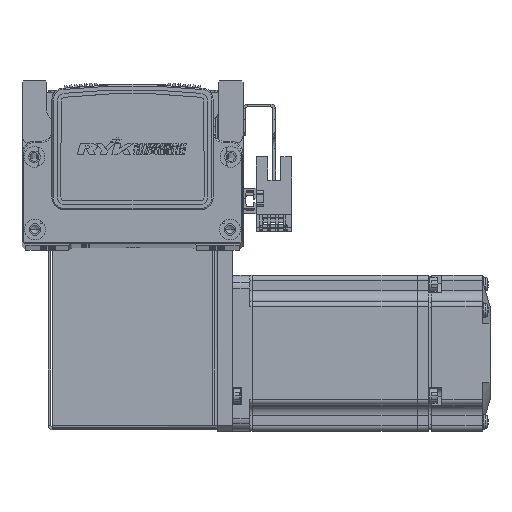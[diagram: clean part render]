
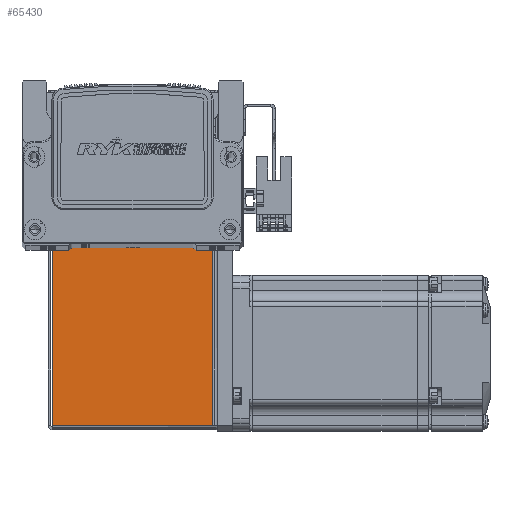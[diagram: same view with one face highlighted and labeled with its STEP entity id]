
A CAD part, top view. The second image highlights one B-rep face of the part: STEP entity #65430.
In plain terms, the highlighted planar face has unit normal (0, 0, 1).
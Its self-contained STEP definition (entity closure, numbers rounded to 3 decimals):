
#11419 = ORIENTED_EDGE ( 'NONE', *, *, #30379, .T. ) ;
#11501 = ORIENTED_EDGE ( 'NONE', *, *, #30336, .T. ) ;
#11550 = ORIENTED_EDGE ( 'NONE', *, *, #30390, .F. ) ;
#11554 = ORIENTED_EDGE ( 'NONE', *, *, #30450, .F. ) ;
#15911 = VERTEX_POINT ( 'NONE', #53717 ) ;
#15982 = VERTEX_POINT ( 'NONE', #53742 ) ;
#16000 = VERTEX_POINT ( 'NONE', #53827 ) ;
#16005 = VERTEX_POINT ( 'NONE', #53755 ) ;
#27397 = DIRECTION ( 'NONE',  ( -1., 0., 0. ) ) ;
#27410 = CARTESIAN_POINT ( 'NONE',  ( -32.5, 0.737, 35. ) ) ;
#28061 = CARTESIAN_POINT ( 'NONE',  ( 0., 72.5, 35. ) ) ;
#28076 = DIRECTION ( 'NONE',  ( -1., 0., 0. ) ) ;
#28186 = CARTESIAN_POINT ( 'NONE',  ( -30.793, 0., 35. ) ) ;
#28191 = DIRECTION ( 'NONE',  ( 0., 1., 0. ) ) ;
#28207 = DIRECTION ( 'NONE',  ( 0., 1., 0. ) ) ;
#28224 = CARTESIAN_POINT ( 'NONE',  ( 30.763, 0.737, 35. ) ) ;
#30336 = EDGE_CURVE ( 'NONE', #16000, #15982, #77604, .T. ) ;
#30379 = EDGE_CURVE ( 'NONE', #16005, #16000, #77678, .T. ) ;
#30390 = EDGE_CURVE ( 'NONE', #15911, #15982, #77742, .T. ) ;
#30450 = EDGE_CURVE ( 'NONE', #16005, #15911, #77829, .T. ) ;
#53717 = CARTESIAN_POINT ( 'NONE',  ( -30.793, 0.737, 35. ) ) ;
#53742 = CARTESIAN_POINT ( 'NONE',  ( -30.793, 72.5, 35. ) ) ;
#53755 = CARTESIAN_POINT ( 'NONE',  ( 30.763, 0.737, 35. ) ) ;
#53827 = CARTESIAN_POINT ( 'NONE',  ( 30.763, 72.5, 35. ) ) ;
#60034 = EDGE_LOOP ( 'NONE', ( #11419, #11501, #11550, #11554 ) ) ;
#65430 = ADVANCED_FACE ( 'NONE', ( #83195 ), #69883, .F. ) ;
#67285 = AXIS2_PLACEMENT_3D ( 'NONE', #69885, #69886, #69887 ) ;
#69883 = PLANE ( 'NONE',  #67285 ) ;
#69885 = CARTESIAN_POINT ( 'NONE',  ( 0., 0., 35. ) ) ;
#69886 = DIRECTION ( 'NONE',  ( 0., 0., -1. ) ) ;
#69887 = DIRECTION ( 'NONE',  ( -1., 0., 0. ) ) ;
#77604 = LINE ( 'NONE', #28061, #77631 ) ;
#77631 = VECTOR ( 'NONE', #28076, 1000. ) ;
#77678 = LINE ( 'NONE', #28224, #77687 ) ;
#77687 = VECTOR ( 'NONE', #28191, 1000. ) ;
#77742 = LINE ( 'NONE', #28186, #77745 ) ;
#77745 = VECTOR ( 'NONE', #28207, 1000. ) ;
#77813 = VECTOR ( 'NONE', #27397, 1000. ) ;
#77829 = LINE ( 'NONE', #27410, #77813 ) ;
#83195 = FACE_OUTER_BOUND ( 'NONE', #60034, .T. ) ;
